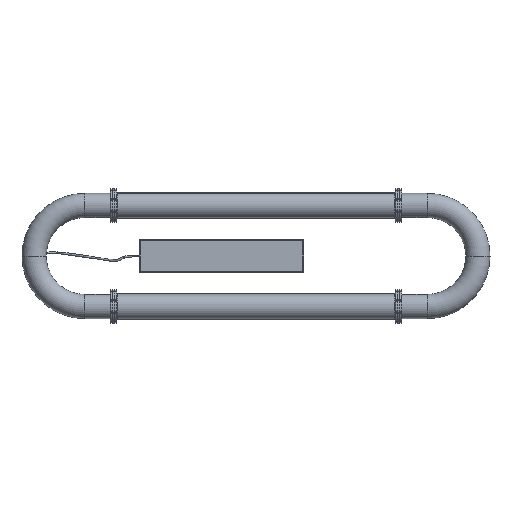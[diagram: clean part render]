
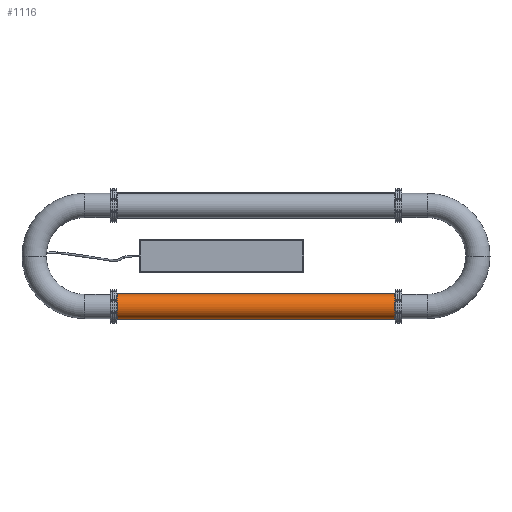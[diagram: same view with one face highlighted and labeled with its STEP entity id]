
A CAD part, front view. The second image highlights one B-rep face of the part: STEP entity #1116.
In plain terms, the highlighted cylindrical face has radius 25 mm (diameter 50 mm), a partial arc.
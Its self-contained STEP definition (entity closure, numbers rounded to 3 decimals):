
#150 = ORIENTED_EDGE ( 'NONE', *, *, #3794, .T. ) ;
#546 = CARTESIAN_POINT ( 'NONE',  ( 25., 0., 275. ) ) ;
#766 = ORIENTED_EDGE ( 'NONE', *, *, #14842, .F. ) ;
#1116 = ADVANCED_FACE ( 'NONE', ( #20233 ), #20101, .T. ) ;
#1930 = EDGE_CURVE ( 'NONE', #14534, #7762, #4455, .T. ) ;
#2834 = DIRECTION ( 'NONE',  ( 0., 0., 1. ) ) ;
#3202 = ORIENTED_EDGE ( 'NONE', *, *, #16205, .F. ) ;
#3742 = DIRECTION ( 'NONE',  ( 0., 0., 1. ) ) ;
#3794 = EDGE_CURVE ( 'NONE', #7762, #23744, #10697, .T. ) ;
#4455 = LINE ( 'NONE', #13700, #6733 ) ;
#6324 = EDGE_LOOP ( 'NONE', ( #766, #3202, #18078, #150 ) ) ;
#6733 = VECTOR ( 'NONE', #23273, 1000. ) ;
#7025 = CARTESIAN_POINT ( 'NONE',  ( 0., 0., -275. ) ) ;
#7061 = CIRCLE ( 'NONE', #22375, 25. ) ;
#7762 = VERTEX_POINT ( 'NONE', #8082 ) ;
#8082 = CARTESIAN_POINT ( 'NONE',  ( -25., 0., -275. ) ) ;
#8242 = CARTESIAN_POINT ( 'NONE',  ( -25., 0., 275. ) ) ;
#8690 = DIRECTION ( 'NONE',  ( 0., 0., -1. ) ) ;
#9520 = AXIS2_PLACEMENT_3D ( 'NONE', #7025, #2834, #18316 ) ;
#9564 = VECTOR ( 'NONE', #22370, 1000. ) ;
#10622 = AXIS2_PLACEMENT_3D ( 'NONE', #16432, #8690, #22079 ) ;
#10697 = CIRCLE ( 'NONE', #9520, 25. ) ;
#13535 = CARTESIAN_POINT ( 'NONE',  ( 25., 0., 275. ) ) ;
#13700 = CARTESIAN_POINT ( 'NONE',  ( -25., 0., 275. ) ) ;
#14534 = VERTEX_POINT ( 'NONE', #8242 ) ;
#14842 = EDGE_CURVE ( 'NONE', #20194, #23744, #20518, .T. ) ;
#16205 = EDGE_CURVE ( 'NONE', #14534, #20194, #7061, .T. ) ;
#16432 = CARTESIAN_POINT ( 'NONE',  ( 0., 0., 275. ) ) ;
#18078 = ORIENTED_EDGE ( 'NONE', *, *, #1930, .T. ) ;
#18316 = DIRECTION ( 'NONE',  ( 1., 0., 0. ) ) ;
#19211 = DIRECTION ( 'NONE',  ( 1., 0., 0. ) ) ;
#19315 = CARTESIAN_POINT ( 'NONE',  ( 25., 0., -275. ) ) ;
#20101 = CYLINDRICAL_SURFACE ( 'NONE', #10622, 25. ) ;
#20194 = VERTEX_POINT ( 'NONE', #546 ) ;
#20233 = FACE_OUTER_BOUND ( 'NONE', #6324, .T. ) ;
#20518 = LINE ( 'NONE', #13535, #9564 ) ;
#20581 = CARTESIAN_POINT ( 'NONE',  ( 0., 0., 275. ) ) ;
#22079 = DIRECTION ( 'NONE',  ( -1., 0., 0. ) ) ;
#22370 = DIRECTION ( 'NONE',  ( 0., 0., -1. ) ) ;
#22375 = AXIS2_PLACEMENT_3D ( 'NONE', #20581, #3742, #19211 ) ;
#23273 = DIRECTION ( 'NONE',  ( 0., 0., -1. ) ) ;
#23744 = VERTEX_POINT ( 'NONE', #19315 ) ;
